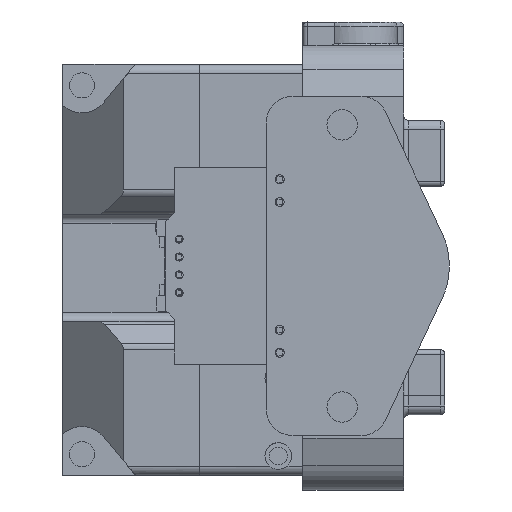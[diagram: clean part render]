
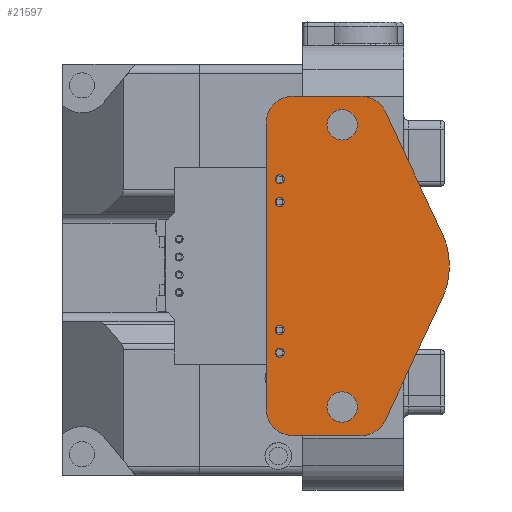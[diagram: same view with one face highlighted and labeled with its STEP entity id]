
A CAD part, front view. The second image highlights one B-rep face of the part: STEP entity #21597.
In plain terms, the highlighted planar face has unit normal (0, -1, 0) as drawn and (0, 0, -1) by its records, which use the part's own axes.
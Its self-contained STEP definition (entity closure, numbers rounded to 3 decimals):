
#289=FACE_BOUND('',#2457,.T.);
#290=FACE_BOUND('',#2458,.T.);
#291=FACE_BOUND('',#2459,.T.);
#292=FACE_BOUND('',#2460,.T.);
#293=FACE_BOUND('',#2461,.T.);
#294=FACE_BOUND('',#2462,.T.);
#457=PLANE('',#22844);
#1256=FACE_OUTER_BOUND('',#2456,.T.);
#2456=EDGE_LOOP('',(#14515,#14516,#14517,#14518,#14519,#14520,#14521,#14522,
#14523,#14524,#14525,#14526));
#2457=EDGE_LOOP('',(#14527));
#2458=EDGE_LOOP('',(#14528));
#2459=EDGE_LOOP('',(#14529));
#2460=EDGE_LOOP('',(#14530));
#2461=EDGE_LOOP('',(#14531));
#2462=EDGE_LOOP('',(#14532));
#3809=LINE('',#31249,#6071);
#3813=LINE('',#31261,#6075);
#3817=LINE('',#31273,#6079);
#3821=LINE('',#31285,#6083);
#3825=LINE('',#31297,#6087);
#3829=LINE('',#31309,#6091);
#6071=VECTOR('',#24898,1000.);
#6075=VECTOR('',#24910,1000.);
#6079=VECTOR('',#24922,1000.);
#6083=VECTOR('',#24934,1000.);
#6087=VECTOR('',#24946,1000.);
#6091=VECTOR('',#24958,1000.);
#8325=CIRCLE('',#22804,1.7);
#8327=CIRCLE('',#22807,0.51);
#8329=CIRCLE('',#22810,1.7);
#8331=CIRCLE('',#22813,0.51);
#8333=CIRCLE('',#22816,0.51);
#8335=CIRCLE('',#22819,0.51);
#8337=CIRCLE('',#22823,3.001);
#8339=CIRCLE('',#22827,3.);
#8341=CIRCLE('',#22831,8.002);
#8343=CIRCLE('',#22835,8.002);
#8345=CIRCLE('',#22839,3.);
#8347=CIRCLE('',#22843,3.001);
#9124=VERTEX_POINT('',#31208);
#9126=VERTEX_POINT('',#31214);
#9128=VERTEX_POINT('',#31220);
#9130=VERTEX_POINT('',#31226);
#9132=VERTEX_POINT('',#31232);
#9134=VERTEX_POINT('',#31238);
#9135=VERTEX_POINT('',#31242);
#9138=VERTEX_POINT('',#31247);
#9140=VERTEX_POINT('',#31253);
#9142=VERTEX_POINT('',#31259);
#9144=VERTEX_POINT('',#31265);
#9146=VERTEX_POINT('',#31271);
#9148=VERTEX_POINT('',#31277);
#9150=VERTEX_POINT('',#31283);
#9152=VERTEX_POINT('',#31289);
#9154=VERTEX_POINT('',#31295);
#9156=VERTEX_POINT('',#31301);
#9158=VERTEX_POINT('',#31307);
#11213=EDGE_CURVE('',#9124,#9124,#8325,.T.);
#11216=EDGE_CURVE('',#9126,#9126,#8327,.T.);
#11219=EDGE_CURVE('',#9128,#9128,#8329,.T.);
#11222=EDGE_CURVE('',#9130,#9130,#8331,.T.);
#11225=EDGE_CURVE('',#9132,#9132,#8333,.T.);
#11228=EDGE_CURVE('',#9134,#9134,#8335,.T.);
#11232=EDGE_CURVE('',#9135,#9138,#3809,.T.);
#11235=EDGE_CURVE('',#9138,#9140,#8337,.T.);
#11238=EDGE_CURVE('',#9140,#9142,#3813,.T.);
#11241=EDGE_CURVE('',#9142,#9144,#8339,.T.);
#11244=EDGE_CURVE('',#9144,#9146,#3817,.T.);
#11247=EDGE_CURVE('',#9146,#9148,#8341,.T.);
#11250=EDGE_CURVE('',#9148,#9150,#3821,.T.);
#11253=EDGE_CURVE('',#9150,#9152,#8343,.T.);
#11256=EDGE_CURVE('',#9152,#9154,#3825,.T.);
#11259=EDGE_CURVE('',#9154,#9156,#8345,.T.);
#11262=EDGE_CURVE('',#9156,#9158,#3829,.T.);
#11264=EDGE_CURVE('',#9158,#9135,#8347,.T.);
#14515=ORIENTED_EDGE('',*,*,#11232,.T.);
#14516=ORIENTED_EDGE('',*,*,#11235,.T.);
#14517=ORIENTED_EDGE('',*,*,#11238,.T.);
#14518=ORIENTED_EDGE('',*,*,#11241,.T.);
#14519=ORIENTED_EDGE('',*,*,#11244,.T.);
#14520=ORIENTED_EDGE('',*,*,#11247,.T.);
#14521=ORIENTED_EDGE('',*,*,#11250,.T.);
#14522=ORIENTED_EDGE('',*,*,#11253,.T.);
#14523=ORIENTED_EDGE('',*,*,#11256,.T.);
#14524=ORIENTED_EDGE('',*,*,#11259,.T.);
#14525=ORIENTED_EDGE('',*,*,#11262,.T.);
#14526=ORIENTED_EDGE('',*,*,#11264,.T.);
#14527=ORIENTED_EDGE('',*,*,#11228,.T.);
#14528=ORIENTED_EDGE('',*,*,#11225,.T.);
#14529=ORIENTED_EDGE('',*,*,#11222,.T.);
#14530=ORIENTED_EDGE('',*,*,#11219,.T.);
#14531=ORIENTED_EDGE('',*,*,#11216,.T.);
#14532=ORIENTED_EDGE('',*,*,#11213,.T.);
#21597=ADVANCED_FACE('',(#1256,#289,#290,#291,#292,#293,#294),#457,.F.);
#22804=AXIS2_PLACEMENT_3D('',#31210,#24856,#24857);
#22807=AXIS2_PLACEMENT_3D('',#31216,#24863,#24864);
#22810=AXIS2_PLACEMENT_3D('',#31222,#24870,#24871);
#22813=AXIS2_PLACEMENT_3D('',#31228,#24877,#24878);
#22816=AXIS2_PLACEMENT_3D('',#31234,#24884,#24885);
#22819=AXIS2_PLACEMENT_3D('',#31240,#24891,#24892);
#22823=AXIS2_PLACEMENT_3D('',#31255,#24904,#24905);
#22827=AXIS2_PLACEMENT_3D('',#31267,#24916,#24917);
#22831=AXIS2_PLACEMENT_3D('',#31279,#24928,#24929);
#22835=AXIS2_PLACEMENT_3D('',#31291,#24940,#24941);
#22839=AXIS2_PLACEMENT_3D('',#31303,#24952,#24953);
#22843=AXIS2_PLACEMENT_3D('',#31312,#24963,#24964);
#22844=AXIS2_PLACEMENT_3D('',#31313,#24965,#24966);
#24856=DIRECTION('center_axis',(0.,0.,1.));
#24857=DIRECTION('ref_axis',(1.,0.,0.));
#24863=DIRECTION('center_axis',(0.,0.,1.));
#24864=DIRECTION('ref_axis',(1.,0.,0.));
#24870=DIRECTION('center_axis',(0.,0.,1.));
#24871=DIRECTION('ref_axis',(1.,0.,0.));
#24877=DIRECTION('center_axis',(0.,0.,1.));
#24878=DIRECTION('ref_axis',(1.,0.,0.));
#24884=DIRECTION('center_axis',(0.,0.,1.));
#24885=DIRECTION('ref_axis',(1.,0.,0.));
#24891=DIRECTION('center_axis',(0.,0.,1.));
#24892=DIRECTION('ref_axis',(1.,0.,0.));
#24898=DIRECTION('',(0.,1.,0.));
#24904=DIRECTION('center_axis',(0.,0.,-1.));
#24905=DIRECTION('ref_axis',(-1.,0.,0.));
#24910=DIRECTION('',(1.,0.,0.));
#24916=DIRECTION('center_axis',(0.,0.,-1.));
#24917=DIRECTION('ref_axis',(0.,1.,0.));
#24922=DIRECTION('',(0.424,-0.906,0.));
#24928=DIRECTION('center_axis',(0.,0.,-1.));
#24929=DIRECTION('ref_axis',(0.906,0.424,0.));
#24934=DIRECTION('',(0.,-1.,0.));
#24940=DIRECTION('center_axis',(0.,0.,-1.));
#24941=DIRECTION('ref_axis',(1.,0.,0.));
#24946=DIRECTION('',(-0.424,-0.906,0.));
#24952=DIRECTION('center_axis',(0.,0.,-1.));
#24953=DIRECTION('ref_axis',(0.906,-0.424,0.));
#24958=DIRECTION('',(-1.,0.,0.));
#24963=DIRECTION('center_axis',(0.,0.,-1.));
#24964=DIRECTION('ref_axis',(0.,-1.,0.));
#24965=DIRECTION('center_axis',(0.,0.,1.));
#24966=DIRECTION('ref_axis',(1.,0.,0.));
#31208=CARTESIAN_POINT('',(-5.2,15.8,-1.619));
#31210=CARTESIAN_POINT('Origin',(-3.5,15.8,-1.619));
#31214=CARTESIAN_POINT('',(-11.01,-9.7,-1.619));
#31216=CARTESIAN_POINT('Origin',(-10.5,-9.7,-1.619));
#31220=CARTESIAN_POINT('',(-5.2,-15.8,-1.619));
#31222=CARTESIAN_POINT('Origin',(-3.5,-15.8,-1.619));
#31226=CARTESIAN_POINT('',(-11.01,7.16,-1.619));
#31228=CARTESIAN_POINT('Origin',(-10.5,7.16,-1.619));
#31232=CARTESIAN_POINT('',(-11.01,9.7,-1.619));
#31234=CARTESIAN_POINT('Origin',(-10.5,9.7,-1.619));
#31238=CARTESIAN_POINT('',(-11.01,-7.16,-1.619));
#31240=CARTESIAN_POINT('Origin',(-10.5,-7.16,-1.619));
#31242=CARTESIAN_POINT('',(-12.,-16.,-1.619));
#31247=CARTESIAN_POINT('',(-12.,16.,-1.619));
#31249=CARTESIAN_POINT('',(-12.,-16.,-1.619));
#31253=CARTESIAN_POINT('',(-9.,19.,-1.619));
#31255=CARTESIAN_POINT('Origin',(-8.999,15.999,-1.619));
#31259=CARTESIAN_POINT('',(-1.393,19.,-1.619));
#31261=CARTESIAN_POINT('',(-9.,19.,-1.619));
#31265=CARTESIAN_POINT('',(1.325,17.271,-1.619));
#31267=CARTESIAN_POINT('Origin',(-1.393,16.,-1.619));
#31271=CARTESIAN_POINT('',(7.746,3.542,-1.619));
#31273=CARTESIAN_POINT('',(1.325,17.271,-1.619));
#31277=CARTESIAN_POINT('',(8.5,0.152,-1.619));
#31279=CARTESIAN_POINT('Origin',(0.498,0.151,-1.619));
#31283=CARTESIAN_POINT('',(8.5,-0.152,-1.619));
#31285=CARTESIAN_POINT('',(8.5,0.152,-1.619));
#31289=CARTESIAN_POINT('',(7.746,-3.542,-1.619));
#31291=CARTESIAN_POINT('Origin',(0.498,-0.151,-1.619));
#31295=CARTESIAN_POINT('',(1.325,-17.271,-1.619));
#31297=CARTESIAN_POINT('',(7.746,-3.542,-1.619));
#31301=CARTESIAN_POINT('',(-1.393,-19.,-1.619));
#31303=CARTESIAN_POINT('Origin',(-1.393,-16.,-1.619));
#31307=CARTESIAN_POINT('',(-9.,-19.,-1.619));
#31309=CARTESIAN_POINT('',(-1.393,-19.,-1.619));
#31312=CARTESIAN_POINT('Origin',(-8.999,-15.999,-1.619));
#31313=CARTESIAN_POINT('Origin',(-12.,-16.,-1.619));
